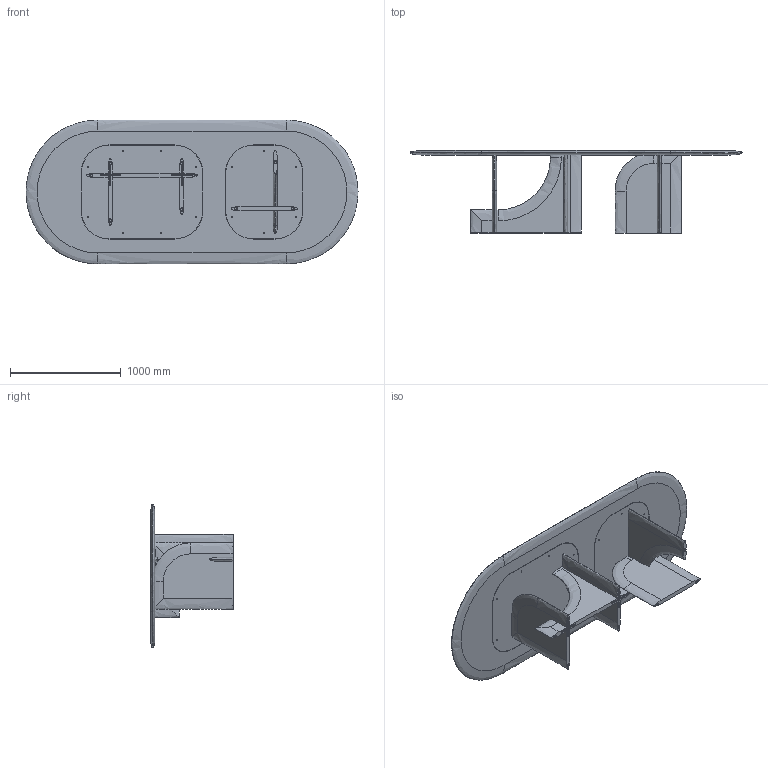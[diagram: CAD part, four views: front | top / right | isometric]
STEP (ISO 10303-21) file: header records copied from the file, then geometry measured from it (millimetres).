
FILE_DESCRIPTION (( 'STEP AP214' ), '1' );
FILE_NAME ('SELCE T 3000 x 1300.STEP', '2024-05-14T15:55:12', ( '' ), ( '' ), 'SwSTEP 2.0', 'SolidWorks 2023', '' );
FILE_SCHEMA (( 'AUTOMOTIVE_DESIGN' ));
Length unit declared in the file: millimetre
Products named in the file (8): GAMBE e PIASTRA_PIASTRA A; SELCE T 3000 x 1300; SCIVOLO_IPEA_20PTPD007N; GAMBE e PIASTRA_PIASTRA B; GAMBE e PIASTRA_GAMBA B; GAMBE e PIASTRA_GAMBA A; CROCE FERRO; TOP_3000 x 1300
Assembly tree (18 placements, depth 2):
  SELCE T 3000 x 1300
    TOP_3000 x 1300
    GAMBE e PIASTRA_GAMBA A
    GAMBE e PIASTRA_GAMBA B
    GAMBE e PIASTRA_PIASTRA A
    GAMBE e PIASTRA_PIASTRA B
    CROCE FERRO  x4
    SCIVOLO_IPEA_20PTPD007N  x9
Bounding box: 2999.95 x 749 x 1300 mm (x, y, z)
Volume: 199938138.2 mm3; surface area: 14109130.7 mm2
Topology: 24 solids, 24 shells, 943 faces, 2405 edges, 1457 vertices
Faces by surface type: cylinder 376, plane 264, cone 212, bspline 91
Entity records: 25118 total; most frequent: CARTESIAN_POINT 8021, DIRECTION 3504, ORIENTED_EDGE 3406, EDGE_CURVE 1703, AXIS2_PLACEMENT_3D 1319, VERTEX_POINT 1089, EDGE_LOOP 908, VECTOR 866
